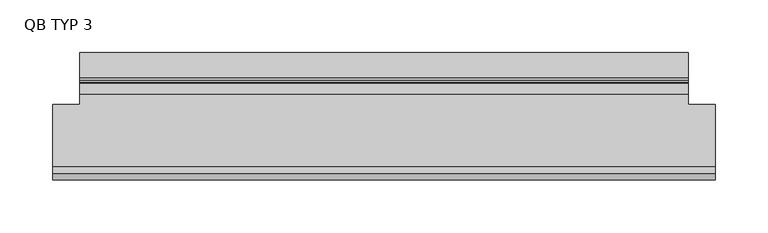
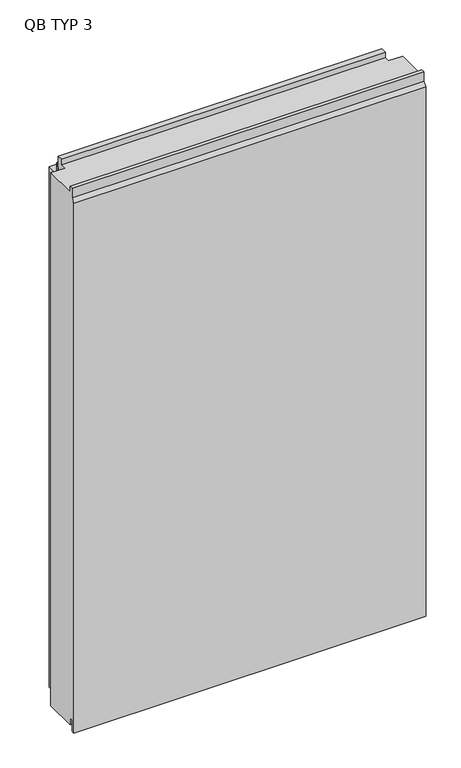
"""IFC4 building model written with IfcOpenShell, lengths in millimetres: plate geometry, TR_C_H_QBISS_Panel : QB TYP 3."""

from ifc_helpers import new_model, si_unit, frame, origin, place, context, project, spatial, polyline, outline, extrude, faceted_brep, source, transform, mapped, element, save


def qb_typ_3_735e8f04(model_context):
    return source(origin(), model_context, "Body", "SolidModel", [
        faceted_brep([(312.4, -108.0, 1000.0), (312.4, -108.0, 1010.0), (312.4, -114.0, 1010.0), (312.4, -114.0, 992.0), (312.4, -120.0, 986.0), (312.4, -120.0, -8.0), (312.4, -114.0, -8.0), (312.4, -114.0, 13.0), (312.4, -108.0, 13.0), (312.4, -108.0, 0.0), (312.4, -49.0, 0.0), (312.4, -49.0, 1000.0), (-312.4, -108.0, 0.0), (-312.4, -108.0, 13.0), (-312.4, -114.0, 13.0), (-312.4, -114.0, -8.0), (-312.4, -120.0, -8.0), (-312.4, -120.0, 986.0), (-312.4, -114.0, 992.0), (-312.4, -114.0, 1010.0), (-312.4, -108.0, 1010.0), (-312.4, -108.0, 1000.0), (-312.4, -49.0, 1000.0), (-312.4, -49.0, 0.0), (-287.3, -49.0, 0.0), (-287.3, -39.0, 0.0), (287.3, -39.0, 0.0), (287.3, -49.0, 0.0), (-287.3, -39.0, 13.0), (287.3, -39.0, 13.0), (-287.3, -29.0, 13.0), (287.3, -29.0, 13.0), (-287.3, -29.0, -4.0), (287.3, -29.0, -4.0), (-287.3, 0.0, -4.0), (287.3, 0.0, -4.0), (-287.3, 0.0, 973.0), (287.3, 0.0, 973.0), (-287.3, -29.0, 973.0), (287.3, -29.0, 973.0), (-287.3, -29.0, 1010.0), (287.3, -29.0, 1010.0), (-287.3, -39.0, 1010.0), (287.3, -39.0, 1010.0), (-287.3, -39.0, 1000.0), (287.3, -39.0, 1000.0), (287.3, -49.0, 1000.0), (-287.3, -49.0, 1000.0)], [[[0, 1, 2, 3, 4, 5, 6, 7, 8, 9, 10, 11]], [[12, 13, 14, 15, 16, 17, 18, 19, 20, 21, 22, 23]], [[9, 12, 23, 24, 25, 26, 27, 10]], [[26, 25, 28, 29]], [[29, 28, 30, 31]], [[31, 30, 32, 33]], [[33, 32, 34, 35]], [[35, 34, 36, 37]], [[37, 36, 38, 39]], [[39, 38, 40, 41]], [[41, 40, 42, 43]], [[43, 42, 44, 45]], [[21, 0, 11, 46, 45, 44, 47, 22]], [[1, 0, 21, 20]], [[2, 1, 20, 19]], [[3, 2, 19, 18]], [[4, 3, 18, 17]], [[5, 4, 17, 16]], [[6, 5, 16, 15]], [[7, 6, 15, 14]], [[8, 7, 14, 13]], [[9, 8, 13, 12]], [[47, 24, 23, 22]], [[24, 47, 44, 42, 40, 38, 36, 34, 32, 30, 28, 25]], [[46, 27, 26, 29, 31, 33, 35, 37, 39, 41, 43, 45]], [[27, 46, 11, 10]]]),
        extrude(outline(polyline([(-24.0, 994.5), (-24.0, 974.5), (-25.4998317, 974.5), (-25.4998317, 981.3023028), (-27.9998293, 981.3023028), (-27.9998293, 980.5023028), (-28.7998428, 980.5023028), (-28.7998428, 988.5023593), (-27.9998293, 988.5023593), (-27.9998293, 987.7023593), (-25.4998317, 987.7023593), (-25.4998317, 994.5), (-24.0, 994.5)])), frame((-287.3, 0.0, 0.0), z_axis=(1.0, 0.0, 0.0), x_axis=(0.0, 1.0, 0.0)), (0.0, 0.0, 1.0), 574.6),
    ])


if __name__ == "__main__":
    model = new_model("IFC4")
    model_context = context("Model", 3, world=origin())
    ifc_project = project(units=[si_unit("LENGTHUNIT", "METRE", prefix="MILLI")], contexts=[model_context])
    site = spatial("IfcSite", under=ifc_project)
    building = spatial("IfcBuilding", under=site)
    placement = place(None, origin())
    qb_typ_3_shape = qb_typ_3_735e8f04(model_context)
    element("IfcPlate", 1, ObjectType="TR_C_H_QBISS_Panel : QB TYP 3", at=placement, inside=building, context=model_context, shape_type="MappedRepresentation", body=[
        mapped(qb_typ_3_shape, transform((0.0, 0.0, 0.0), x_axis=(1.0, 0.0, 0.0), y_axis=(0.0, 1.0, 0.0), z_axis=(0.0, 0.0, 1.0))),
    ])
    save(model, "model.ifc")
